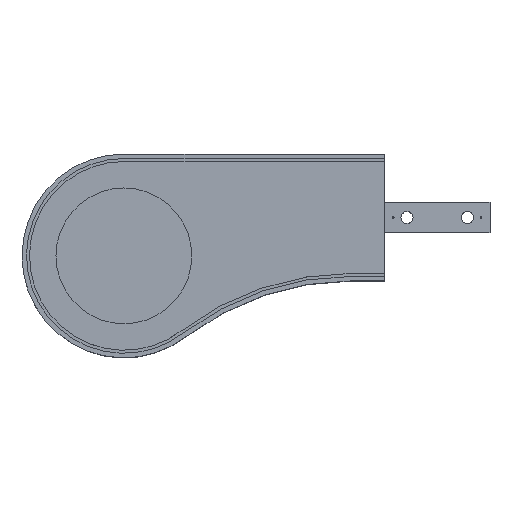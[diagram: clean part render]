
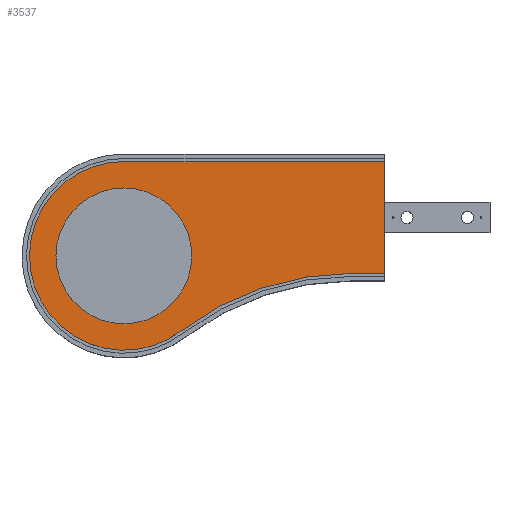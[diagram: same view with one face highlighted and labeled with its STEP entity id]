
A CAD part, top view. The second image highlights one B-rep face of the part: STEP entity #3537.
In plain terms, the highlighted planar face has unit normal (0, 0, 1).
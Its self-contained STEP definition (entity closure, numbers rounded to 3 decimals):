
#50 = LINE ( 'NONE', #1248, #704 ) ;
#62 = CARTESIAN_POINT ( 'NONE',  ( 67.5, -25.5, 45. ) ) ;
#212 = CARTESIAN_POINT ( 'NONE',  ( 67.5, -25.5, 45. ) ) ;
#217 = AXIS2_PLACEMENT_3D ( 'NONE', #62, #888, #2580 ) ;
#272 = LINE ( 'NONE', #1550, #1889 ) ;
#366 = CARTESIAN_POINT ( 'NONE',  ( 218.656, -224., 45. ) ) ;
#412 = LINE ( 'NONE', #589, #1427 ) ;
#540 = CIRCLE ( 'NONE', #3168, 62.5 ) ;
#541 = CIRCLE ( 'NONE', #217, 45. ) ;
#564 = CARTESIAN_POINT ( 'NONE',  ( 240., -37., 45. ) ) ;
#589 = CARTESIAN_POINT ( 'NONE',  ( 218.656, -37., 45. ) ) ;
#645 = DIRECTION ( 'NONE',  ( 0., 0., -1. ) ) ;
#704 = VECTOR ( 'NONE', #990, 1000. ) ;
#820 = DIRECTION ( 'NONE',  ( 1., 0., 0. ) ) ;
#888 = DIRECTION ( 'NONE',  ( 0., 0., -1. ) ) ;
#889 = CIRCLE ( 'NONE', #2546, 45. ) ;
#907 = ORIENTED_EDGE ( 'NONE', *, *, #2122, .T. ) ;
#940 = CARTESIAN_POINT ( 'NONE',  ( 22.5, -25.5, 45. ) ) ;
#955 = VERTEX_POINT ( 'NONE', #3090 ) ;
#990 = DIRECTION ( 'NONE',  ( 0., 1., 0. ) ) ;
#1123 = DIRECTION ( 'NONE',  ( 0., 0., 1. ) ) ;
#1139 = DIRECTION ( 'NONE',  ( 1., 0., 0. ) ) ;
#1156 = EDGE_CURVE ( 'Edge22', #3277, #1308, #540, .T. ) ;
#1245 = EDGE_CURVE ( 'Edge6', #1308, #955, #1884, .T. ) ;
#1248 = CARTESIAN_POINT ( 'NONE',  ( 240., -42., 45. ) ) ;
#1253 = CARTESIAN_POINT ( 'NONE',  ( 112.5, -25.5, 45. ) ) ;
#1305 = PLANE ( 'NONE',  #2371 ) ;
#1308 = VERTEX_POINT ( 'NONE', #3492 ) ;
#1343 = ORIENTED_EDGE ( 'NONE', *, *, #1245, .T. ) ;
#1427 = VECTOR ( 'NONE', #1139, 1000. ) ;
#1490 = ORIENTED_EDGE ( 'NONE', *, *, #2197, .T. ) ;
#1513 = EDGE_LOOP ( 'NONE', ( #907, #1490 ) ) ;
#1550 = CARTESIAN_POINT ( 'NONE',  ( 67.5, 37., 45. ) ) ;
#1713 = ORIENTED_EDGE ( 'NONE', *, *, #2481, .T. ) ;
#1734 = CARTESIAN_POINT ( 'NONE',  ( 67.5, -25.5, 45. ) ) ;
#1762 = CARTESIAN_POINT ( 'NONE',  ( 67.5, 37., 45. ) ) ;
#1790 = AXIS2_PLACEMENT_3D ( 'NONE', #366, #645, #3175 ) ;
#1795 = VERTEX_POINT ( 'NONE', #2596 ) ;
#1831 = DIRECTION ( 'NONE',  ( 1., 0., 0. ) ) ;
#1884 = CIRCLE ( 'NONE', #1790, 187. ) ;
#1885 = VERTEX_POINT ( 'NONE', #1253 ) ;
#1889 = VECTOR ( 'NONE', #1831, 1000. ) ;
#1969 = DIRECTION ( 'NONE',  ( 1., 0., 0. ) ) ;
#2122 = EDGE_CURVE ( 'NONE', #2697, #1885, #889, .T. ) ;
#2197 = EDGE_CURVE ( 'NONE', #1885, #2697, #541, .T. ) ;
#2261 = FACE_BOUND ( 'NONE', #1513, .T. ) ;
#2351 = FACE_OUTER_BOUND ( 'NONE', #2582, .T. ) ;
#2371 = AXIS2_PLACEMENT_3D ( 'NONE', #212, #1123, #1969 ) ;
#2476 = EDGE_CURVE ( 'NONE', #3277, #1795, #272, .T. ) ;
#2481 = EDGE_CURVE ( 'Edge13', #3150, #1795, #50, .T. ) ;
#2508 = ORIENTED_EDGE ( 'NONE', *, *, #2476, .F. ) ;
#2509 = CARTESIAN_POINT ( 'NONE',  ( 67.5, -25.5, 45. ) ) ;
#2546 = AXIS2_PLACEMENT_3D ( 'NONE', #2509, #3108, #820 ) ;
#2580 = DIRECTION ( 'NONE',  ( 1., 0., 0. ) ) ;
#2582 = EDGE_LOOP ( 'NONE', ( #1343, #2664, #1713, #2508, #3464 ) ) ;
#2596 = CARTESIAN_POINT ( 'NONE',  ( 240., 37., 45. ) ) ;
#2598 = DIRECTION ( 'NONE',  ( 1., 0., 0. ) ) ;
#2642 = DIRECTION ( 'NONE',  ( 0., 0., 1. ) ) ;
#2664 = ORIENTED_EDGE ( 'NONE', *, *, #3097, .T. ) ;
#2697 = VERTEX_POINT ( 'NONE', #940 ) ;
#3090 = CARTESIAN_POINT ( 'NONE',  ( 218.656, -37., 45. ) ) ;
#3097 = EDGE_CURVE ( 'Edge30', #955, #3150, #412, .T. ) ;
#3108 = DIRECTION ( 'NONE',  ( 0., 0., -1. ) ) ;
#3150 = VERTEX_POINT ( 'NONE', #564 ) ;
#3168 = AXIS2_PLACEMENT_3D ( 'NONE', #1734, #2642, #2598 ) ;
#3175 = DIRECTION ( 'NONE',  ( -1., 0., 0. ) ) ;
#3277 = VERTEX_POINT ( 'NONE', #1762 ) ;
#3464 = ORIENTED_EDGE ( 'NONE', *, *, #1156, .T. ) ;
#3492 = CARTESIAN_POINT ( 'NONE',  ( 105.365, -75.224, 45. ) ) ;
#3537 = ADVANCED_FACE ( 'NONE', ( #2351, #2261 ), #1305, .T. ) ;
